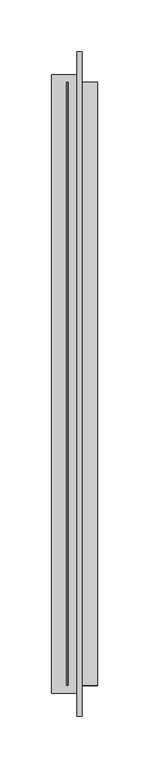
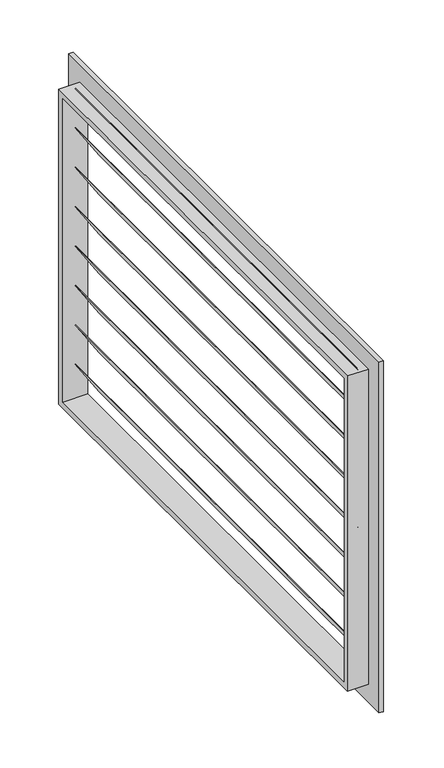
"""IFC4 building model written with IfcOpenShell, lengths in millimetres: air terminal geometry, BL_РешеткаПрямоугольная_Вытяжная_LVI : BL_РешеткаПрямоугольная_Вытяжная_LVI."""

from ifc_helpers import new_model, si_unit, frame, origin, place, context, project, spatial, polyline, outline, extrude, faceted_brep, source, transform, mapped, element, save


def air_terminal_1dd1559a(model_context):
    return source(origin(), model_context, "Body", "SolidModel", [
        extrude(outline(polyline([(155.0, 45.0), (200.0, 16.0), (200.0, 15.0), (155.0, 44.0), (155.0, 45.0)])), frame((0.0, -292.5, 0.0), z_axis=(0.0, 1.0, 0.0), x_axis=(0.0, 0.0, 1.0)), (0.0, 0.0, 1.0), 585.0),
        extrude(outline(polyline([(105.0, 45.0), (150.0, 16.0), (150.0, 15.0), (105.0, 44.0), (105.0, 45.0)])), frame((0.0, -292.5, 0.0), z_axis=(0.0, 1.0, 0.0), x_axis=(0.0, 0.0, 1.0)), (0.0, 0.0, 1.0), 585.0),
        extrude(outline(polyline([(55.0, 45.0), (100.0, 16.0), (100.0, 15.0), (55.0, 44.0), (55.0, 45.0)])), frame((0.0, -292.5, 0.0), z_axis=(0.0, 1.0, 0.0), x_axis=(0.0, 0.0, 1.0)), (0.0, 0.0, 1.0), 585.0),
        extrude(outline(polyline([(5.0, 45.0), (50.0, 16.0), (50.0, 15.0), (5.0, 44.0), (5.0, 45.0)])), frame((0.0, -292.5, 0.0), z_axis=(0.0, 1.0, 0.0), x_axis=(0.0, 0.0, 1.0)), (0.0, 0.0, 1.0), 585.0),
        extrude(outline(polyline([(-45.0, 45.0), (0.0, 16.0), (0.0, 15.0), (-45.0, 44.0), (-45.0, 45.0)])), frame((0.0, -292.5, 0.0), z_axis=(0.0, 1.0, 0.0), x_axis=(0.0, 0.0, 1.0)), (0.0, 0.0, 1.0), 585.0),
        extrude(outline(polyline([(-95.0, 45.0), (-50.0, 16.0), (-50.0, 15.0), (-95.0, 44.0), (-95.0, 45.0)])), frame((0.0, -292.5, 0.0), z_axis=(0.0, 1.0, 0.0), x_axis=(0.0, 0.0, 1.0)), (0.0, 0.0, 1.0), 585.0),
        extrude(outline(polyline([(-145.0, 45.0), (-100.0, 16.0), (-100.0, 15.0), (-145.0, 44.0), (-145.0, 45.0)])), frame((0.0, -292.5, 0.0), z_axis=(0.0, 1.0, 0.0), x_axis=(0.0, 0.0, 1.0)), (0.0, 0.0, 1.0), 585.0),
        extrude(outline(polyline([(-195.0, 45.0), (-150.0, 16.0), (-150.0, 15.0), (-195.0, 44.0), (-195.0, 45.0)])), frame((0.0, -292.5, 0.0), z_axis=(0.0, 1.0, 0.0), x_axis=(0.0, 0.0, 1.0)), (0.0, 0.0, 1.0), 585.0),
        faceted_brep([(30.0, -322.5, 222.5), (30.0, -322.5, -222.5), (30.0, 322.5, -222.5), (30.0, 322.5, 222.5), (30.0, -292.5, 192.5), (30.0, 292.5, 192.5), (30.0, 292.5, -192.5), (30.0, -292.5, -192.5), (0.0, -300.0, 200.0), (0.0, 300.0, 200.0), (0.0, 300.0, -200.0), (0.0, -300.0, -200.0), (0.0, -292.5, 192.5), (0.0, -292.5, -192.5), (0.0, 292.5, -192.5), (0.0, 292.5, 192.5), (25.0, -322.5, 222.5), (25.0, -322.5, -222.5), (25.0, 322.5, -222.5), (25.0, 322.5, 222.5), (25.0, -300.0, 200.0), (25.0, -300.0, -200.0), (25.0, 300.0, -200.0), (25.0, 300.0, 200.0)], [[[0, 1, 2, 3], [4, 5, 6, 7]], [[8, 9, 10, 11], [12, 13, 14, 15]], [[1, 0, 16, 17]], [[2, 1, 17, 18]], [[3, 2, 18, 19]], [[0, 3, 19, 16]], [[17, 16, 19, 18], [20, 21, 22, 23]], [[20, 23, 9, 8]], [[23, 22, 10, 9]], [[22, 21, 11, 10]], [[21, 20, 8, 11]], [[5, 4, 12, 15]], [[6, 5, 15, 14]], [[7, 6, 14, 13]], [[4, 7, 13, 12]]]),
    ])


if __name__ == "__main__":
    model = new_model("IFC4")
    model_context = context("Model", 3, world=origin())
    ifc_project = project(units=[si_unit("LENGTHUNIT", "METRE", prefix="MILLI")], contexts=[model_context])
    site = spatial("IfcSite", under=ifc_project)
    building = spatial("IfcBuilding", under=site)
    placement = place(None, origin())
    air_terminal_shape = air_terminal_1dd1559a(model_context)
    element("IfcAirTerminal", 1, ObjectType="BL_РешеткаПрямоугольная_Вытяжная_LVI : BL_РешеткаПрямоугольная_Вытяжная_LVI", at=placement, inside=building, context=model_context, shape_type="MappedRepresentation", body=[
        mapped(air_terminal_shape, transform((0.0, 0.0, 0.0), x_axis=(1.0, 0.0, 0.0), y_axis=(0.0, 1.0, 0.0), z_axis=(0.0, 0.0, 1.0))),
    ])
    save(model, "model.ifc")
